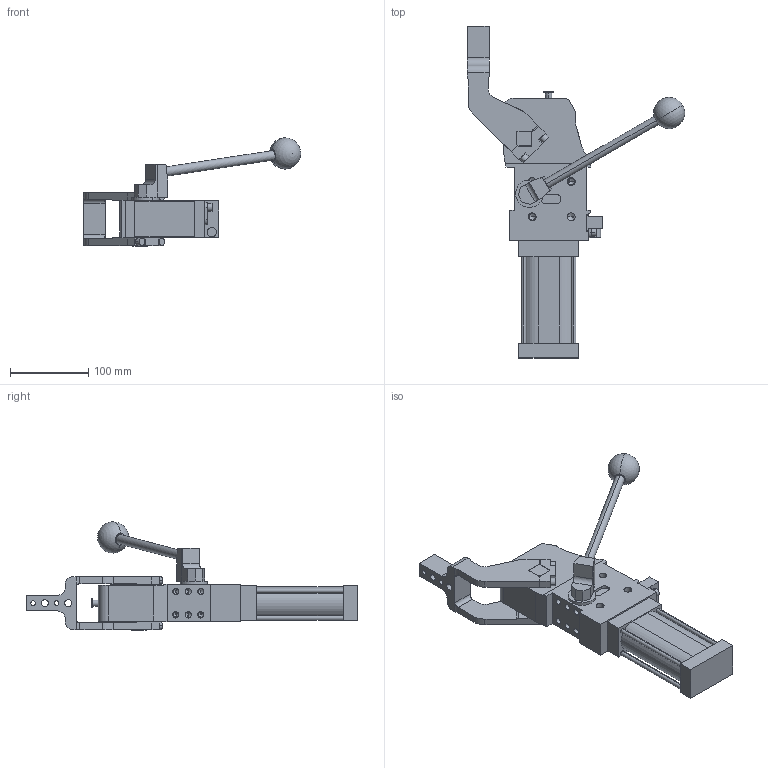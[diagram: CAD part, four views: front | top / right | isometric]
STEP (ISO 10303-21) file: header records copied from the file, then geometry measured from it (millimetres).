
FILE_DESCRIPTION (( 'STEP AP214' ), '1' );
FILE_NAME ('cplm50lah3ci1g_107.STEP', '2023-01-26T13:59:25', ( '' ), ( '' ), 'SwSTEP 2.0', 'SolidWorks 2022', '' );
FILE_SCHEMA (( 'AUTOMOTIVE_DESIGN' ));
Length unit declared in the file: millimetre
Products named in the file (5): meccanica_cplm_50; leva_cx_offset_45_cpl50; blocchetto_VEP_0; comando_manuale_cplm_50; cplm50lah3ci1g_107
Assembly tree (4 placements, depth 2):
  cplm50lah3ci1g_107
    meccanica_cplm_50
    blocchetto_VEP_0
    leva_cx_offset_45_cpl50
    comando_manuale_cplm_50
Bounding box: 278.06 x 424.5 x 138.5 mm (x, y, z)
Volume: 1472648.4 mm3; surface area: 183543.8 mm2
Topology: 4 solids, 4 shells, 433 faces, 1114 edges, 695 vertices
Faces by surface type: plane 214, cylinder 167, cone 50, sphere 2
Entity records: 14437 total; most frequent: DIRECTION 2293, CARTESIAN_POINT 2271, ORIENTED_EDGE 2126, EDGE_CURVE 1063, AXIS2_PLACEMENT_3D 796, LINE 701, VECTOR 701, VERTEX_POINT 692
